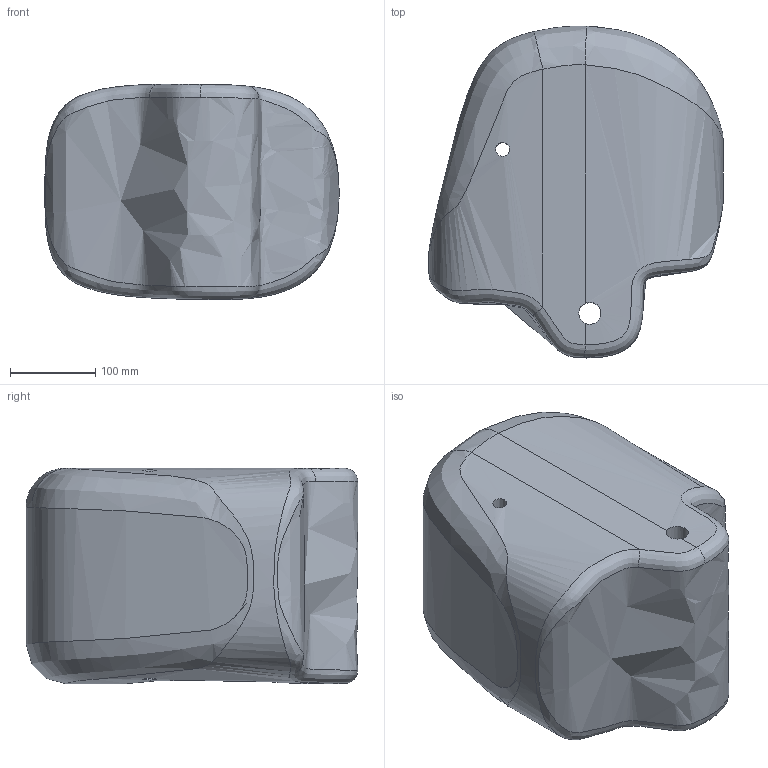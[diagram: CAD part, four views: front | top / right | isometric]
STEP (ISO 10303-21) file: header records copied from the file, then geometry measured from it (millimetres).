
FILE_DESCRIPTION(/* description */ ('Alibre Inc.'),/* implementation_level */ '2;1');
FILE_NAME(/* name */ 'export0',/* time_stamp */ '2007-03-23T19:17:28-07:00',/* author */ (''),/* organization */ (''),/* preprocessor_version */ 'ST-DEVELOPER v10',/* originating_system */ 'Alibre',/* authorisation */ '');
FILE_SCHEMA (('ALIBRE_SCHEMA','CONFIG_CONTROL_DESIGN'));
Length unit declared in the file: centimetre
Products named in the file (1): ID_1
Bounding box: 345.79 x 389.98 x 253.14 mm (x, y, z)
Volume: 23223542.5 mm3; surface area: 477849 mm2
Topology: 1 solids, 1 shells, 13 faces, 40 edges, 25 vertices
Faces by surface type: bspline 10, cylinder 2, plane 1
Full cylindrical faces by diameter (mm): 16.509 x1, 25.961 x1
Entity records: 5380 total; most frequent: CARTESIAN_POINT 4544, PERSISTANTTOPOLOGYATTRIBUTE 185, ORIENTED_EDGE 66, EDGE_CURVE 33, B_SPLINE_CURVE_WITH_KNOTS 29, INTEGERVALUEPAIR 29, DIRECTION 25, VERTEX_POINT 23
